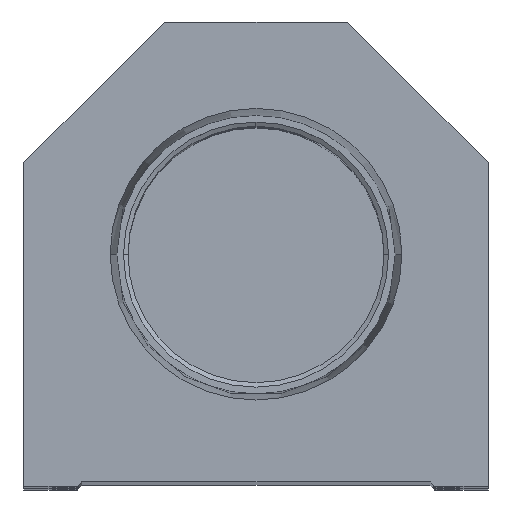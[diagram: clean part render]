
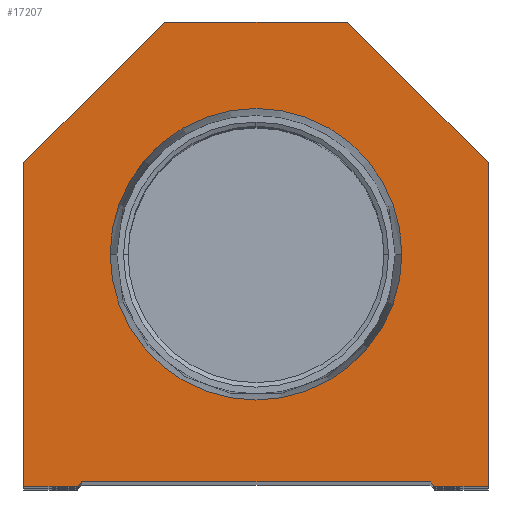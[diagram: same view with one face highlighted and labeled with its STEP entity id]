
A CAD part, top view. The second image highlights one B-rep face of the part: STEP entity #17207.
In plain terms, the highlighted planar face has unit normal (0, 0, 1).
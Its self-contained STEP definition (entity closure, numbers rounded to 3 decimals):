
#97 = VECTOR ( 'NONE', #1723, 1000. ) ;
#124 = VERTEX_POINT ( 'NONE', #14385 ) ;
#251 = VERTEX_POINT ( 'NONE', #6688 ) ;
#702 = DIRECTION ( 'NONE',  ( 1., 0., 0. ) ) ;
#896 = LINE ( 'NONE', #14885, #13420 ) ;
#909 = VECTOR ( 'NONE', #13743, 1000. ) ;
#1057 = EDGE_CURVE ( 'NONE', #15529, #4381, #3253, .T. ) ;
#1153 = ORIENTED_EDGE ( 'NONE', *, *, #2836, .T. ) ;
#1225 = CARTESIAN_POINT ( 'NONE',  ( 10., 50.8, 0. ) ) ;
#1698 = ORIENTED_EDGE ( 'NONE', *, *, #6572, .T. ) ;
#1723 = DIRECTION ( 'NONE',  ( 0.707, -0.707, 0. ) ) ;
#1988 = VERTEX_POINT ( 'NONE', #16151 ) ;
#2258 = EDGE_CURVE ( 'NONE', #1988, #2777, #10881, .T. ) ;
#2274 = VERTEX_POINT ( 'NONE', #14896 ) ;
#2777 = VERTEX_POINT ( 'NONE', #16784 ) ;
#2813 = ORIENTED_EDGE ( 'NONE', *, *, #6118, .T. ) ;
#2836 = EDGE_CURVE ( 'NONE', #124, #18258, #5111, .T. ) ;
#3124 = ORIENTED_EDGE ( 'NONE', *, *, #17863, .F. ) ;
#3253 = CIRCLE ( 'NONE', #12491, 15.947 ) ;
#3280 = CARTESIAN_POINT ( 'NONE',  ( 19.05, 0.5, 0. ) ) ;
#3736 = EDGE_CURVE ( 'NONE', #251, #2274, #6117, .T. ) ;
#4075 = LINE ( 'NONE', #7032, #8028 ) ;
#4341 = VECTOR ( 'NONE', #15294, 1000. ) ;
#4381 = VERTEX_POINT ( 'NONE', #12477 ) ;
#4501 = LINE ( 'NONE', #10210, #97 ) ;
#4537 = DIRECTION ( 'NONE',  ( -1., 0., 0. ) ) ;
#4803 = LINE ( 'NONE', #17427, #11051 ) ;
#4984 = CARTESIAN_POINT ( 'NONE',  ( -9.775, 9.775, 0. ) ) ;
#5111 = LINE ( 'NONE', #16506, #909 ) ;
#5221 = CARTESIAN_POINT ( 'NONE',  ( 0., 25.4, 0. ) ) ;
#5349 = EDGE_CURVE ( 'NONE', #18258, #8480, #4501, .T. ) ;
#5495 = DIRECTION ( 'NONE',  ( 1., 0., 0. ) ) ;
#5627 = AXIS2_PLACEMENT_3D ( 'NONE', #14017, #17080, #5495 ) ;
#5811 = DIRECTION ( 'NONE',  ( -0.707, -0.707, 0. ) ) ;
#5819 = CARTESIAN_POINT ( 'NONE',  ( 0., 25.4, 0. ) ) ;
#6117 = LINE ( 'NONE', #12223, #12746 ) ;
#6118 = EDGE_CURVE ( 'NONE', #10369, #1988, #8394, .T. ) ;
#6572 = EDGE_CURVE ( 'NONE', #10167, #7662, #4803, .T. ) ;
#6648 = CARTESIAN_POINT ( 'NONE',  ( -10., 50.8, 0. ) ) ;
#6657 = CARTESIAN_POINT ( 'NONE',  ( -19.05, 0., 0. ) ) ;
#6661 = ORIENTED_EDGE ( 'NONE', *, *, #12344, .T. ) ;
#6688 = CARTESIAN_POINT ( 'NONE',  ( 25.4, 0., 0. ) ) ;
#6959 = LINE ( 'NONE', #12494, #4341 ) ;
#6997 = DIRECTION ( 'NONE',  ( 0., -1., 0. ) ) ;
#7032 = CARTESIAN_POINT ( 'NONE',  ( -25.4, 35.4, 0. ) ) ;
#7329 = DIRECTION ( 'NONE',  ( 1., 0., 0. ) ) ;
#7407 = VECTOR ( 'NONE', #9284, 1000. ) ;
#7662 = VERTEX_POINT ( 'NONE', #6648 ) ;
#7852 = VECTOR ( 'NONE', #12374, 1000. ) ;
#8028 = VECTOR ( 'NONE', #5811, 1000. ) ;
#8286 = FACE_BOUND ( 'NONE', #17386, .T. ) ;
#8394 = LINE ( 'NONE', #8669, #8889 ) ;
#8480 = VERTEX_POINT ( 'NONE', #16449 ) ;
#8669 = CARTESIAN_POINT ( 'NONE',  ( -25.4, 0., 0. ) ) ;
#8796 = ORIENTED_EDGE ( 'NONE', *, *, #5349, .T. ) ;
#8889 = VECTOR ( 'NONE', #6997, 1000. ) ;
#9284 = DIRECTION ( 'NONE',  ( 0.707, 0.707, 0. ) ) ;
#10167 = VERTEX_POINT ( 'NONE', #1225 ) ;
#10210 = CARTESIAN_POINT ( 'NONE',  ( 9.775, 9.775, 0. ) ) ;
#10369 = VERTEX_POINT ( 'NONE', #17115 ) ;
#10457 = AXIS2_PLACEMENT_3D ( 'NONE', #5221, #12163, #702 ) ;
#10739 = ORIENTED_EDGE ( 'NONE', *, *, #2258, .T. ) ;
#10881 = LINE ( 'NONE', #6657, #7852 ) ;
#11027 = PLANE ( 'NONE',  #5627 ) ;
#11035 = ORIENTED_EDGE ( 'NONE', *, *, #16502, .T. ) ;
#11051 = VECTOR ( 'NONE', #4537, 1000. ) ;
#11077 = LINE ( 'NONE', #4984, #7407 ) ;
#12163 = DIRECTION ( 'NONE',  ( 0., 0., 1. ) ) ;
#12223 = CARTESIAN_POINT ( 'NONE',  ( 25.4, 0., 0. ) ) ;
#12344 = EDGE_CURVE ( 'NONE', #2274, #10167, #6959, .T. ) ;
#12374 = DIRECTION ( 'NONE',  ( 1., 0., 0. ) ) ;
#12477 = CARTESIAN_POINT ( 'NONE',  ( 15.947, 25.4, 0. ) ) ;
#12491 = AXIS2_PLACEMENT_3D ( 'NONE', #5819, #17244, #7329 ) ;
#12494 = CARTESIAN_POINT ( 'NONE',  ( 25.4, 35.4, 0. ) ) ;
#12746 = VECTOR ( 'NONE', #17910, 1000. ) ;
#13019 = ORIENTED_EDGE ( 'NONE', *, *, #16873, .T. ) ;
#13420 = VECTOR ( 'NONE', #17875, 1000. ) ;
#13743 = DIRECTION ( 'NONE',  ( 1., 0., 0. ) ) ;
#14017 = CARTESIAN_POINT ( 'NONE',  ( 0., 0., 0. ) ) ;
#14385 = CARTESIAN_POINT ( 'NONE',  ( -19.05, 0.5, 0. ) ) ;
#14784 = EDGE_LOOP ( 'NONE', ( #10739, #11035, #1153, #8796, #13019, #16454, #6661, #1698, #18299, #2813 ) ) ;
#14885 = CARTESIAN_POINT ( 'NONE',  ( 19.05, 0., 0. ) ) ;
#14896 = CARTESIAN_POINT ( 'NONE',  ( 25.4, 35.4, 0. ) ) ;
#15173 = CARTESIAN_POINT ( 'NONE',  ( -15.947, 25.4, 0. ) ) ;
#15294 = DIRECTION ( 'NONE',  ( -0.707, 0.707, 0. ) ) ;
#15319 = FACE_OUTER_BOUND ( 'NONE', #14784, .T. ) ;
#15446 = ORIENTED_EDGE ( 'NONE', *, *, #1057, .F. ) ;
#15529 = VERTEX_POINT ( 'NONE', #15173 ) ;
#16151 = CARTESIAN_POINT ( 'NONE',  ( -25.4, 0., 0. ) ) ;
#16449 = CARTESIAN_POINT ( 'NONE',  ( 19.55, 0., 0. ) ) ;
#16454 = ORIENTED_EDGE ( 'NONE', *, *, #3736, .T. ) ;
#16502 = EDGE_CURVE ( 'NONE', #2777, #124, #11077, .T. ) ;
#16506 = CARTESIAN_POINT ( 'NONE',  ( -19.05, 0.5, 0. ) ) ;
#16784 = CARTESIAN_POINT ( 'NONE',  ( -19.55, 0., 0. ) ) ;
#16873 = EDGE_CURVE ( 'NONE', #8480, #251, #896, .T. ) ;
#17080 = DIRECTION ( 'NONE',  ( 0., 0., 1. ) ) ;
#17115 = CARTESIAN_POINT ( 'NONE',  ( -25.4, 35.4, 0. ) ) ;
#17207 = ADVANCED_FACE ( 'NONE', ( #8286, #15319 ), #11027, .T. ) ;
#17244 = DIRECTION ( 'NONE',  ( 0., 0., 1. ) ) ;
#17386 = EDGE_LOOP ( 'NONE', ( #3124, #15446 ) ) ;
#17427 = CARTESIAN_POINT ( 'NONE',  ( 10., 50.8, 0. ) ) ;
#17588 = EDGE_CURVE ( 'NONE', #7662, #10369, #4075, .T. ) ;
#17863 = EDGE_CURVE ( 'NONE', #4381, #15529, #17904, .T. ) ;
#17875 = DIRECTION ( 'NONE',  ( 1., 0., 0. ) ) ;
#17904 = CIRCLE ( 'NONE', #10457, 15.947 ) ;
#17910 = DIRECTION ( 'NONE',  ( 0., 1., 0. ) ) ;
#18258 = VERTEX_POINT ( 'NONE', #3280 ) ;
#18299 = ORIENTED_EDGE ( 'NONE', *, *, #17588, .T. ) ;
